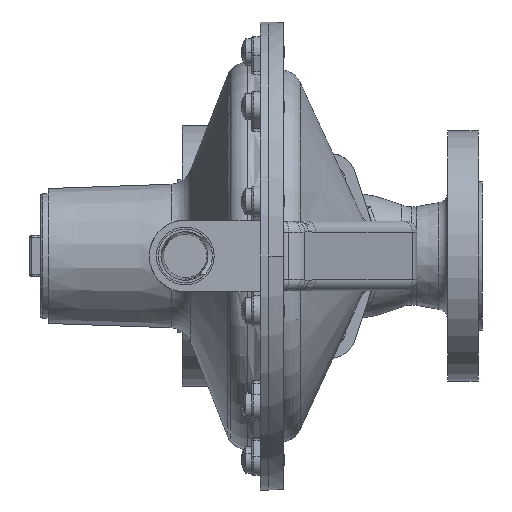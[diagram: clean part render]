
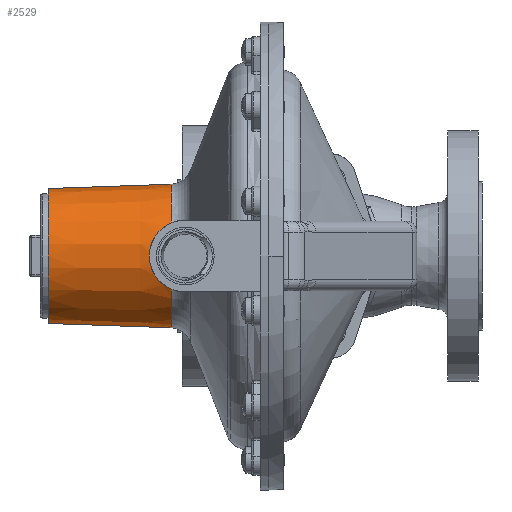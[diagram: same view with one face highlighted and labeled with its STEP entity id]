
A CAD part, left-side view. The second image highlights one B-rep face of the part: STEP entity #2529.
In plain terms, the highlighted conical face has half-angle 1.998 degrees and reference radius 32.971 mm.
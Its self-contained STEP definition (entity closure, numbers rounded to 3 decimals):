
#686 = DIRECTION ( 'NONE',  ( 0., 1., 0. ) ) ;
#848 = CARTESIAN_POINT ( 'NONE',  ( -30.78, 52.981, 11.277 ) ) ;
#1032 = AXIS2_PLACEMENT_3D ( 'NONE', #1631, #11372, #3041 ) ;
#1104 = VERTEX_POINT ( 'NONE', #17458 ) ;
#1158 = CARTESIAN_POINT ( 'NONE',  ( -32.617, 57.415, 0.818 ) ) ;
#1190 = CARTESIAN_POINT ( 'NONE',  ( 0., 47.509, -32.971 ) ) ;
#1222 = CARTESIAN_POINT ( 'NONE',  ( -31.514, 54.907, -8.778 ) ) ;
#1631 = CARTESIAN_POINT ( 'NONE',  ( 0., 47.509, 0. ) ) ;
#1879 = CIRCLE ( 'NONE', #9533, 31. ) ;
#2235 = CARTESIAN_POINT ( 'NONE',  ( -31.25, 54.248, 9.772 ) ) ;
#2529 = ADVANCED_FACE ( 'NONE', ( #13802 ), #11037, .T. ) ;
#2543 = CARTESIAN_POINT ( 'NONE',  ( -32.625, 57.43, -0.799 ) ) ;
#2605 = CARTESIAN_POINT ( 'NONE',  ( -31.065, 53.769, -10.394 ) ) ;
#2741 = EDGE_CURVE ( 'NONE', #8518, #3740, #1879, .T. ) ;
#3041 = DIRECTION ( 'NONE',  ( 0., 0., 1. ) ) ;
#3146 = CARTESIAN_POINT ( 'NONE',  ( -29.293, 47.509, 15.132 ) ) ;
#3373 = EDGE_CURVE ( 'NONE', #3780, #4622, #14528, .T. ) ;
#3517 = ORIENTED_EDGE ( 'NONE', *, *, #3373, .T. ) ;
#3583 = EDGE_LOOP ( 'NONE', ( #17698, #9168, #7266, #3517, #15675, #9774 ) ) ;
#3593 = CARTESIAN_POINT ( 'NONE',  ( -29.293, 47.509, 15.132 ) ) ;
#3657 = CARTESIAN_POINT ( 'NONE',  ( -31.598, 55.11, 8.446 ) ) ;
#3740 = VERTEX_POINT ( 'NONE', #8275 ) ;
#3780 = VERTEX_POINT ( 'NONE', #8393 ) ;
#3943 = VECTOR ( 'NONE', #8132, 1000. ) ;
#3973 = CARTESIAN_POINT ( 'NONE',  ( -32.514, 57.194, -2.81 ) ) ;
#4004 = EDGE_CURVE ( 'NONE', #3740, #1104, #14083, .T. ) ;
#4041 = CARTESIAN_POINT ( 'NONE',  ( -30.489, 52.144, -12.129 ) ) ;
#4622 = VERTEX_POINT ( 'NONE', #12506 ) ;
#4807 = LINE ( 'NONE', #1190, #3943 ) ;
#4948 = AXIS2_PLACEMENT_3D ( 'NONE', #16643, #8271, #18055 ) ;
#5041 = B_SPLINE_CURVE_WITH_KNOTS ( 'NONE', 3,
 ( #3593, #11914, #14757, #6383, #16166, #7788, #17590, #9182, #848, #10573, #2235, #11985, #3657, #13393, #5061, #14828, #6444, #16223, #7859, #17645, #9244, #1158, #10884, #2543, #12298, #3973, #13721, #5380, #15138, #6757, #16543, #8167, #17956, #9562, #1222, #10943, #2605, #12358, #4041, #13777, #5437, #15196, #6820, #16612 ),
 .UNSPECIFIED., .F., .F.,
 ( 4, 2, 2, 2, 2, 2, 2, 2, 2, 2, 2, 2, 2, 2, 2, 2, 2, 2, 2, 2, 2, 4 ),
 ( 0., 0.002, 0.005, 0.006, 0.007, 0.01, 0.011, 0.012, 0.015, 0.017, 0.018, 0.019, 0.022, 0.023, 0.024, 0.027, 0.028, 0.029, 0.031, 0.034, 0.036, 0.039 ),
 .UNSPECIFIED. ) ;
#5061 = CARTESIAN_POINT ( 'NONE',  ( -31.841, 55.687, 7.391 ) ) ;
#5380 = CARTESIAN_POINT ( 'NONE',  ( -32.397, 56.942, -4.006 ) ) ;
#5437 = CARTESIAN_POINT ( 'NONE',  ( -29.928, 50.297, -13.607 ) ) ;
#6121 = AXIS2_PLACEMENT_3D ( 'NONE', #18054, #9660, #11044 ) ;
#6383 = CARTESIAN_POINT ( 'NONE',  ( -29.928, 50.297, 13.607 ) ) ;
#6408 = EDGE_CURVE ( 'NONE', #9582, #1104, #9665, .T. ) ;
#6444 = CARTESIAN_POINT ( 'NONE',  ( -32.19, 56.485, 5.56 ) ) ;
#6757 = CARTESIAN_POINT ( 'NONE',  ( -32.192, 56.489, -5.55 ) ) ;
#6820 = CARTESIAN_POINT ( 'NONE',  ( -29.431, 48.25, -14.809 ) ) ;
#7085 = VECTOR ( 'NONE', #12014, 1000. ) ;
#7266 = ORIENTED_EDGE ( 'NONE', *, *, #11418, .T. ) ;
#7788 = CARTESIAN_POINT ( 'NONE',  ( -30.395, 51.843, 12.382 ) ) ;
#7859 = CARTESIAN_POINT ( 'NONE',  ( -32.483, 57.128, 3.246 ) ) ;
#8132 = DIRECTION ( 'NONE',  ( 0., -0.999, -0.035 ) ) ;
#8167 = CARTESIAN_POINT ( 'NONE',  ( -31.842, 55.691, -7.383 ) ) ;
#8271 = DIRECTION ( 'NONE',  ( 0., 1., 0. ) ) ;
#8275 = CARTESIAN_POINT ( 'NONE',  ( 0., 104., 31. ) ) ;
#8393 = CARTESIAN_POINT ( 'NONE',  ( 0., 47.509, -32.971 ) ) ;
#8518 = VERTEX_POINT ( 'NONE', #12529 ) ;
#9033 = CARTESIAN_POINT ( 'NONE',  ( 0., 104., 0. ) ) ;
#9168 = ORIENTED_EDGE ( 'NONE', *, *, #2741, .F. ) ;
#9182 = CARTESIAN_POINT ( 'NONE',  ( -30.684, 52.708, 11.562 ) ) ;
#9244 = CARTESIAN_POINT ( 'NONE',  ( -32.589, 57.354, 1.629 ) ) ;
#9533 = AXIS2_PLACEMENT_3D ( 'NONE', #9033, #686, #10413 ) ;
#9562 = CARTESIAN_POINT ( 'NONE',  ( -31.6, 55.114, -8.439 ) ) ;
#9582 = VERTEX_POINT ( 'NONE', #3146 ) ;
#9660 = DIRECTION ( 'NONE',  ( 0., -1., 0. ) ) ;
#9665 = CIRCLE ( 'NONE', #4948, 32.971 ) ;
#9774 = ORIENTED_EDGE ( 'NONE', *, *, #6408, .T. ) ;
#10413 = DIRECTION ( 'NONE',  ( 0., 0., 1. ) ) ;
#10573 = CARTESIAN_POINT ( 'NONE',  ( -31.065, 53.768, 10.395 ) ) ;
#10612 = CARTESIAN_POINT ( 'NONE',  ( 0., 47.509, 32.971 ) ) ;
#10884 = CARTESIAN_POINT ( 'NONE',  ( -32.624, 57.43, 0.414 ) ) ;
#10943 = CARTESIAN_POINT ( 'NONE',  ( -31.251, 54.251, -9.769 ) ) ;
#11033 = EDGE_CURVE ( 'NONE', #9582, #4622, #5041, .T. ) ;
#11037 = CONICAL_SURFACE ( 'NONE', #6121, 32.971, 0.035 ) ;
#11044 = DIRECTION ( 'NONE',  ( 0., 0., -1. ) ) ;
#11372 = DIRECTION ( 'NONE',  ( 0., 1., 0. ) ) ;
#11418 = EDGE_CURVE ( 'NONE', #8518, #3780, #4807, .T. ) ;
#11914 = CARTESIAN_POINT ( 'NONE',  ( -29.43, 48.25, 14.809 ) ) ;
#11985 = CARTESIAN_POINT ( 'NONE',  ( -31.513, 54.903, 8.784 ) ) ;
#12014 = DIRECTION ( 'NONE',  ( 0., -0.999, 0.035 ) ) ;
#12298 = CARTESIAN_POINT ( 'NONE',  ( -32.597, 57.372, -1.604 ) ) ;
#12358 = CARTESIAN_POINT ( 'NONE',  ( -30.685, 52.718, -11.572 ) ) ;
#12506 = CARTESIAN_POINT ( 'NONE',  ( -29.293, 47.509, -15.132 ) ) ;
#12529 = CARTESIAN_POINT ( 'NONE',  ( 0., 104., -31. ) ) ;
#13393 = CARTESIAN_POINT ( 'NONE',  ( -31.762, 55.502, 7.75 ) ) ;
#13721 = CARTESIAN_POINT ( 'NONE',  ( -32.479, 57.119, -3.213 ) ) ;
#13777 = CARTESIAN_POINT ( 'NONE',  ( -30.111, 50.934, -13.145 ) ) ;
#13802 = FACE_OUTER_BOUND ( 'NONE', #3583, .T. ) ;
#14083 = LINE ( 'NONE', #10612, #7085 ) ;
#14528 = CIRCLE ( 'NONE', #1032, 32.971 ) ;
#14757 = CARTESIAN_POINT ( 'NONE',  ( -29.588, 48.954, 14.439 ) ) ;
#14828 = CARTESIAN_POINT ( 'NONE',  ( -32.062, 56.199, 6.305 ) ) ;
#15138 = CARTESIAN_POINT ( 'NONE',  ( -32.35, 56.839, -4.396 ) ) ;
#15196 = CARTESIAN_POINT ( 'NONE',  ( -29.588, 48.955, -14.439 ) ) ;
#15675 = ORIENTED_EDGE ( 'NONE', *, *, #11033, .F. ) ;
#16166 = CARTESIAN_POINT ( 'NONE',  ( -30.111, 50.935, 13.145 ) ) ;
#16223 = CARTESIAN_POINT ( 'NONE',  ( -32.401, 56.95, 4.031 ) ) ;
#16543 = CARTESIAN_POINT ( 'NONE',  ( -32.063, 56.202, -6.297 ) ) ;
#16612 = CARTESIAN_POINT ( 'NONE',  ( -29.293, 47.509, -15.132 ) ) ;
#16643 = CARTESIAN_POINT ( 'NONE',  ( 0., 47.509, 0. ) ) ;
#17458 = CARTESIAN_POINT ( 'NONE',  ( 0., 47.509, 32.971 ) ) ;
#17590 = CARTESIAN_POINT ( 'NONE',  ( -30.492, 52.139, 12.115 ) ) ;
#17645 = CARTESIAN_POINT ( 'NONE',  ( -32.568, 57.309, 2.036 ) ) ;
#17698 = ORIENTED_EDGE ( 'NONE', *, *, #4004, .F. ) ;
#17956 = CARTESIAN_POINT ( 'NONE',  ( -31.764, 55.507, -7.741 ) ) ;
#18054 = CARTESIAN_POINT ( 'NONE',  ( 0., 47.509, 0. ) ) ;
#18055 = DIRECTION ( 'NONE',  ( 0., 0., 1. ) ) ;
